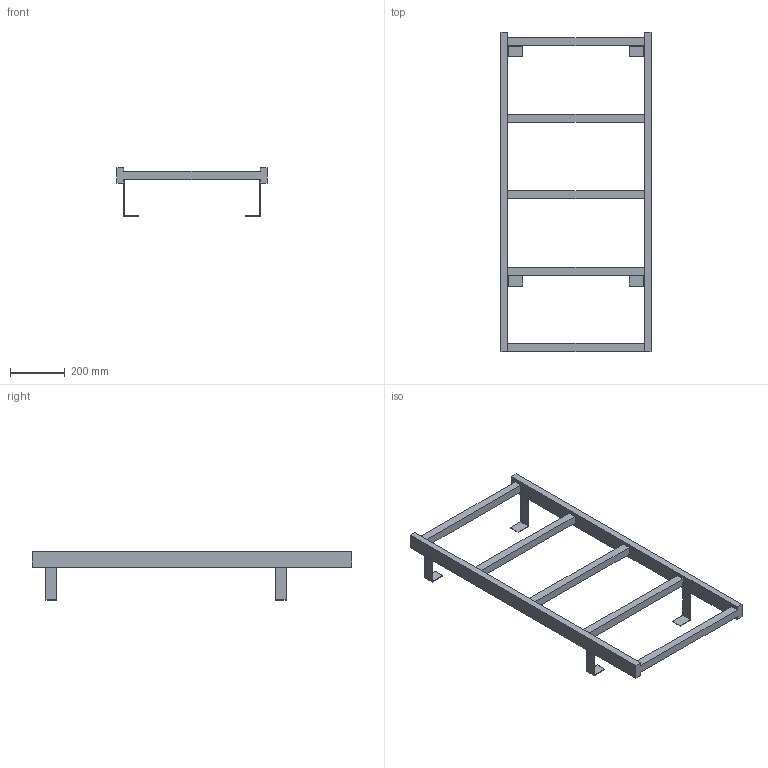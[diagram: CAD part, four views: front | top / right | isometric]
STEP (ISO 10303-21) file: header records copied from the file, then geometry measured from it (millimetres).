
FILE_DESCRIPTION((''),'2;1');
FILE_NAME('52311178','2024-10-17T13:39:57',('wep'),('HUBER SE'),'CREO PARAMETRIC BY PTC INC, 2022162','CREO PARAMETRIC BY PTC INC, 2022162','');
FILE_SCHEMA(('AUTOMOTIVE_DESIGN { 1 0 10303 214 1 1 1 1 }'));
Length unit declared in the file: millimetre
Products named in the file (1): 52311178
Bounding box: 550 x 1170 x 178.5 mm (x, y, z)
Volume: 5649460 mm3; surface area: 739948 mm2
Topology: 1 solids, 1 shells, 62 faces, 180 edges, 116 vertices
Faces by surface type: plane 62
Entity records: 2573 total; most frequent: CARTESIAN_POINT 360, ORIENTED_EDGE 360, DIRECTION 304, VECTOR 180, LINE 180, EDGE_CURVE 180, VERTEX_POINT 116, COLOUR_RGB 106
